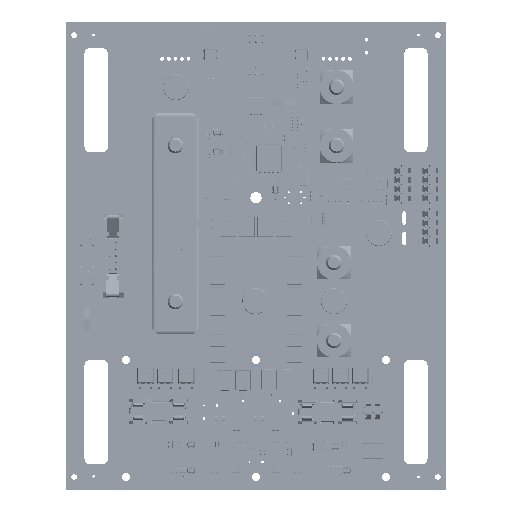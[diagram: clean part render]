
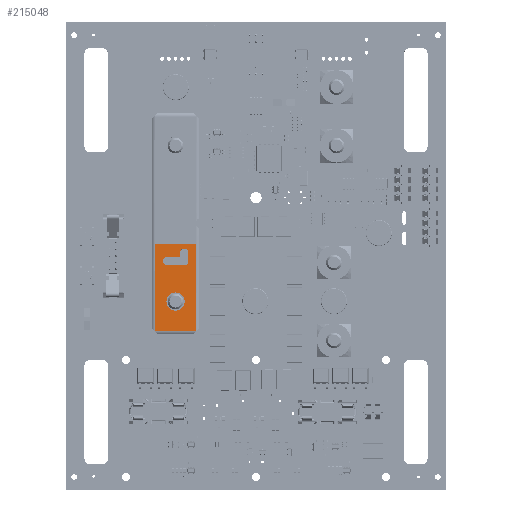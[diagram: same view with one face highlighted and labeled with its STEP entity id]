
A CAD part, top view. The second image highlights one B-rep face of the part: STEP entity #215048.
In plain terms, the highlighted planar face has unit normal (0, 0, 1) as drawn and (0, 0, -1) by its records, which use the part's own axes.
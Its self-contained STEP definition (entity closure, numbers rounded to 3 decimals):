
#214927 = VERTEX_POINT('',#214928);
#214928 = CARTESIAN_POINT('',(31.306,13.881,0.));
#214946 = VERTEX_POINT('',#214947);
#214947 = CARTESIAN_POINT('',(32.893,12.294,0.));
#214953 = EDGE_CURVE('',#214946,#214927,#214954,.T.);
#214954 = CIRCLE('',#214955,1.588);
#214955 = AXIS2_PLACEMENT_3D('',#214956,#214957,#214958);
#214956 = CARTESIAN_POINT('',(31.306,12.294,0.));
#214957 = DIRECTION('',(-0.,0.,1.));
#214958 = DIRECTION('',(1.,0.,0.));
#215011 = VERTEX_POINT('',#215012);
#215012 = CARTESIAN_POINT('',(16.002,8.992,0.));
#215030 = VERTEX_POINT('',#215031);
#215031 = CARTESIAN_POINT('',(8.992,8.992,0.));
#215037 = EDGE_CURVE('',#215030,#215011,#215038,.T.);
#215038 = CIRCLE('',#215039,3.505);
#215039 = AXIS2_PLACEMENT_3D('',#215040,#215041,#215042);
#215040 = CARTESIAN_POINT('',(12.497,8.992,0.));
#215041 = DIRECTION('',(0.,0.,1.));
#215042 = DIRECTION('',(1.,0.,-0.));
#215048 = ADVANCED_FACE('',(#215049,#215109,#215119),#215153,.F.);
#215049 = FACE_BOUND('',#215050,.T.);
#215050 = EDGE_LOOP('',(#215051,#215059,#215068,#215076,#215085,#215093,
    #215101,#215108));
#215051 = ORIENTED_EDGE('',*,*,#215052,.T.);
#215052 = EDGE_CURVE('',#214927,#215053,#215055,.T.);
#215053 = VERTEX_POINT('',#215054);
#215054 = CARTESIAN_POINT('',(28.004,13.881,0.));
#215055 = LINE('',#215056,#215057);
#215056 = CARTESIAN_POINT('',(0.,13.881,0.));
#215057 = VECTOR('',#215058,1.);
#215058 = DIRECTION('',(-1.,0.,-0.));
#215059 = ORIENTED_EDGE('',*,*,#215060,.T.);
#215060 = EDGE_CURVE('',#215053,#215061,#215063,.T.);
#215061 = VERTEX_POINT('',#215062);
#215062 = CARTESIAN_POINT('',(26.416,12.294,0.));
#215063 = CIRCLE('',#215064,1.588);
#215064 = AXIS2_PLACEMENT_3D('',#215065,#215066,#215067);
#215065 = CARTESIAN_POINT('',(28.004,12.294,0.));
#215066 = DIRECTION('',(-0.,0.,1.));
#215067 = DIRECTION('',(1.,0.,0.));
#215068 = ORIENTED_EDGE('',*,*,#215069,.T.);
#215069 = EDGE_CURVE('',#215061,#215070,#215072,.T.);
#215070 = VERTEX_POINT('',#215071);
#215071 = CARTESIAN_POINT('',(26.416,5.69,0.));
#215072 = LINE('',#215073,#215074);
#215073 = CARTESIAN_POINT('',(26.416,0.,0.));
#215074 = VECTOR('',#215075,1.);
#215075 = DIRECTION('',(0.,-1.,0.));
#215076 = ORIENTED_EDGE('',*,*,#215077,.T.);
#215077 = EDGE_CURVE('',#215070,#215078,#215080,.T.);
#215078 = VERTEX_POINT('',#215079);
#215079 = CARTESIAN_POINT('',(29.591,5.715,0.));
#215080 = CIRCLE('',#215081,1.588);
#215081 = AXIS2_PLACEMENT_3D('',#215082,#215083,#215084);
#215082 = CARTESIAN_POINT('',(28.004,5.715,0.));
#215083 = DIRECTION('',(-0.,0.,1.));
#215084 = DIRECTION('',(1.,0.,0.));
#215085 = ORIENTED_EDGE('',*,*,#215086,.T.);
#215086 = EDGE_CURVE('',#215078,#215087,#215089,.T.);
#215087 = VERTEX_POINT('',#215088);
#215088 = CARTESIAN_POINT('',(29.591,10.706,0.));
#215089 = LINE('',#215090,#215091);
#215090 = CARTESIAN_POINT('',(29.591,0.,0.));
#215091 = VECTOR('',#215092,1.);
#215092 = DIRECTION('',(0.,1.,0.));
#215093 = ORIENTED_EDGE('',*,*,#215094,.T.);
#215094 = EDGE_CURVE('',#215087,#215095,#215097,.T.);
#215095 = VERTEX_POINT('',#215096);
#215096 = CARTESIAN_POINT('',(31.306,10.706,0.));
#215097 = LINE('',#215098,#215099);
#215098 = CARTESIAN_POINT('',(0.,10.706,0.));
#215099 = VECTOR('',#215100,1.);
#215100 = DIRECTION('',(1.,0.,0.));
#215101 = ORIENTED_EDGE('',*,*,#215102,.T.);
#215102 = EDGE_CURVE('',#215095,#214946,#215103,.T.);
#215103 = CIRCLE('',#215104,1.588);
#215104 = AXIS2_PLACEMENT_3D('',#215105,#215106,#215107);
#215105 = CARTESIAN_POINT('',(31.306,12.294,0.));
#215106 = DIRECTION('',(-0.,0.,1.));
#215107 = DIRECTION('',(1.,0.,0.));
#215108 = ORIENTED_EDGE('',*,*,#214953,.T.);
#215109 = FACE_BOUND('',#215110,.T.);
#215110 = EDGE_LOOP('',(#215111,#215118));
#215111 = ORIENTED_EDGE('',*,*,#215112,.T.);
#215112 = EDGE_CURVE('',#215011,#215030,#215113,.T.);
#215113 = CIRCLE('',#215114,3.505);
#215114 = AXIS2_PLACEMENT_3D('',#215115,#215116,#215117);
#215115 = CARTESIAN_POINT('',(12.497,8.992,0.));
#215116 = DIRECTION('',(0.,0.,1.));
#215117 = DIRECTION('',(1.,0.,-0.));
#215118 = ORIENTED_EDGE('',*,*,#215037,.T.);
#215119 = FACE_BOUND('',#215120,.T.);
#215120 = EDGE_LOOP('',(#215121,#215131,#215139,#215147));
#215121 = ORIENTED_EDGE('',*,*,#215122,.T.);
#215122 = EDGE_CURVE('',#215123,#215125,#215127,.T.);
#215123 = VERTEX_POINT('',#215124);
#215124 = CARTESIAN_POINT('',(1.148,1.148,0.));
#215125 = VERTEX_POINT('',#215126);
#215126 = CARTESIAN_POINT('',(1.148,16.835,0.));
#215127 = LINE('',#215128,#215129);
#215128 = CARTESIAN_POINT('',(1.148,0.,0.));
#215129 = VECTOR('',#215130,1.);
#215130 = DIRECTION('',(-0.,1.,-0.));
#215131 = ORIENTED_EDGE('',*,*,#215132,.F.);
#215132 = EDGE_CURVE('',#215133,#215125,#215135,.T.);
#215133 = VERTEX_POINT('',#215134);
#215134 = CARTESIAN_POINT('',(34.684,16.835,0.));
#215135 = LINE('',#215136,#215137);
#215136 = CARTESIAN_POINT('',(35.895,16.835,0.));
#215137 = VECTOR('',#215138,1.);
#215138 = DIRECTION('',(-1.,0.,-0.));
#215139 = ORIENTED_EDGE('',*,*,#215140,.F.);
#215140 = EDGE_CURVE('',#215141,#215133,#215143,.T.);
#215141 = VERTEX_POINT('',#215142);
#215142 = CARTESIAN_POINT('',(34.684,1.148,0.));
#215143 = LINE('',#215144,#215145);
#215144 = CARTESIAN_POINT('',(34.684,0.,0.));
#215145 = VECTOR('',#215146,1.);
#215146 = DIRECTION('',(0.,1.,0.));
#215147 = ORIENTED_EDGE('',*,*,#215148,.T.);
#215148 = EDGE_CURVE('',#215141,#215123,#215149,.T.);
#215149 = LINE('',#215150,#215151);
#215150 = CARTESIAN_POINT('',(35.895,1.148,0.));
#215151 = VECTOR('',#215152,1.);
#215152 = DIRECTION('',(-1.,0.,-0.));
#215153 = PLANE('',#215154);
#215154 = AXIS2_PLACEMENT_3D('',#215155,#215156,#215157);
#215155 = CARTESIAN_POINT('',(0.,0.,0.));
#215156 = DIRECTION('',(-0.,0.,1.));
#215157 = DIRECTION('',(1.,0.,0.));
